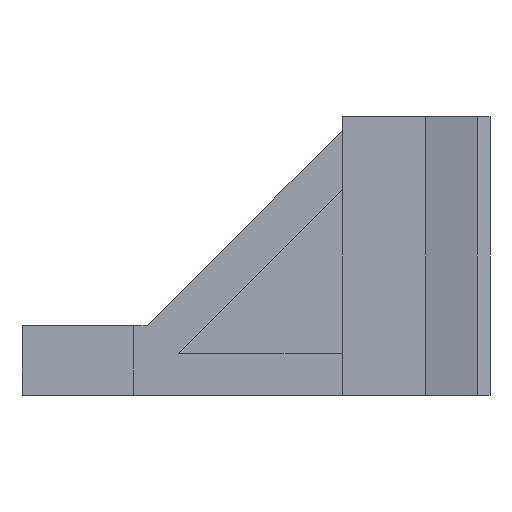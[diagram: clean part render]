
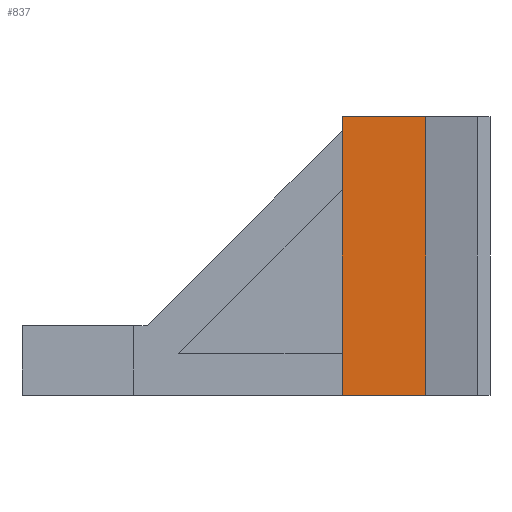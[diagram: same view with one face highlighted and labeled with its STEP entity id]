
A CAD part, left-side view. The second image highlights one B-rep face of the part: STEP entity #837.
In plain terms, the highlighted planar face has unit normal (-1, 0, 0).
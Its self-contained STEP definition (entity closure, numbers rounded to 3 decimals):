
#55=FACE_OUTER_BOUND('',#99,.T.);
#99=EDGE_LOOP('',(#690,#691,#692,#693));
#142=LINE('',#1178,#255);
#205=LINE('',#1311,#318);
#208=LINE('',#1318,#321);
#209=LINE('',#1319,#322);
#255=VECTOR('',#958,10.);
#318=VECTOR('',#1069,10.);
#321=VECTOR('',#1076,10.);
#322=VECTOR('',#1077,10.);
#360=VERTEX_POINT('',#1175);
#361=VERTEX_POINT('',#1177);
#407=VERTEX_POINT('',#1309);
#409=VERTEX_POINT('',#1317);
#445=EDGE_CURVE('',#361,#360,#142,.T.);
#512=EDGE_CURVE('',#407,#360,#205,.T.);
#515=EDGE_CURVE('',#409,#361,#208,.T.);
#516=EDGE_CURVE('',#409,#407,#209,.T.);
#690=ORIENTED_EDGE('',*,*,#515,.T.);
#691=ORIENTED_EDGE('',*,*,#445,.T.);
#692=ORIENTED_EDGE('',*,*,#512,.F.);
#693=ORIENTED_EDGE('',*,*,#516,.F.);
#795=PLANE('',#897);
#837=ADVANCED_FACE('',(#55),#795,.T.);
#897=AXIS2_PLACEMENT_3D('',#1316,#1074,#1075);
#958=DIRECTION('',(0.,0.,-1.));
#1069=DIRECTION('',(0.,1.,0.));
#1074=DIRECTION('center_axis',(-1.,0.,0.));
#1075=DIRECTION('ref_axis',(0.,0.,1.));
#1076=DIRECTION('',(0.,1.,0.));
#1077=DIRECTION('',(0.,0.,-1.));
#1175=CARTESIAN_POINT('',(56.582,14.5,-33.527));
#1177=CARTESIAN_POINT('',(56.582,14.5,-23.527));
#1178=CARTESIAN_POINT('',(56.582,14.5,-6.181));
#1309=CARTESIAN_POINT('',(56.582,11.5,-33.527));
#1311=CARTESIAN_POINT('',(56.582,13.75,-33.527));
#1316=CARTESIAN_POINT('Origin',(56.582,13.,-1.181));
#1317=CARTESIAN_POINT('',(56.582,11.5,-23.527));
#1318=CARTESIAN_POINT('',(56.582,12.424,-23.527));
#1319=CARTESIAN_POINT('',(56.582,11.5,-3.681));
